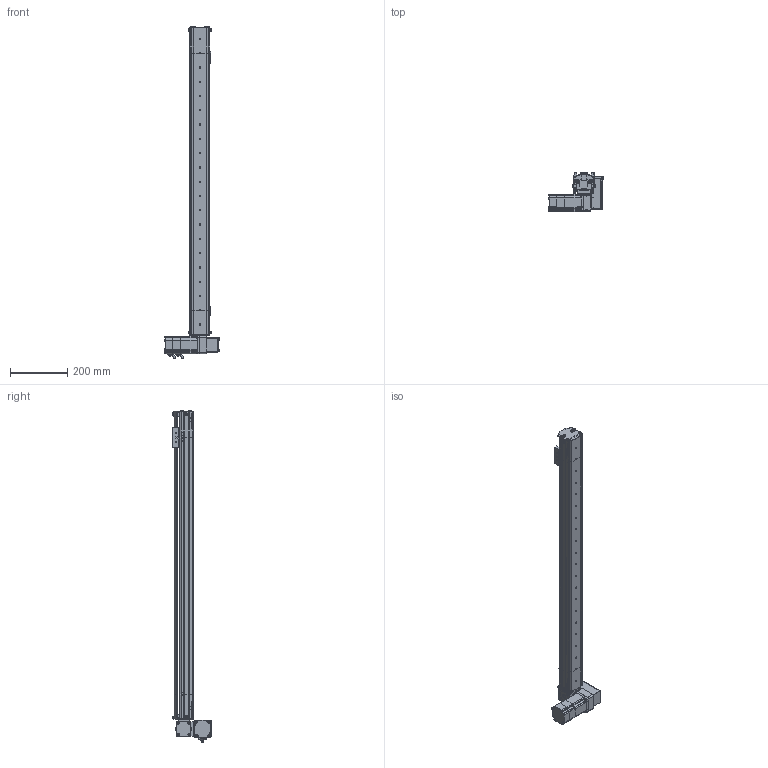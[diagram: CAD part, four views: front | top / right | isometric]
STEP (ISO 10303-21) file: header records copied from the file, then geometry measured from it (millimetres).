
FILE_DESCRIPTION (( 'STEP AP214' ), '1' );
FILE_NAME ('S07 TBN LU S900.STEP', '2010-06-29T11:43:47', ( 'Conseil Régional Haute-Normandie' ), ( 'Conseil Régional Haute-Normandie' ), 'SwSTEP 2.0', 'SolidWorks 2010', '' );
FILE_SCHEMA (( 'AUTOMOTIVE_DESIGN' ));
Length unit declared in the file: millimetre
Products named in the file (41): guide; Vis M5 L16-2_Default; Cvis M5 L30_Default; S07 TB tail (78)_Default; VisM3_Default; Conecteur2 60BLDC_Default; Axe 60BLDC_Default; Conecteur 60BLDC_Default; Chariot; S07 TBN LU S900; Couroie  course 900_Default; Corp S07 course 900_Default; Course C L900_Default; corp moteur TB(146)_Default; S07 LU(146)_Default; couvercle S07 course 900 ; cache t皻e axe_Default; couvercle moteur S07 TB; plaque de bout LU_Default; vis M5 L5_Default; cache t皻e_Default; Poulie head_Default; Plaque racord_Default; Couroie t皻e_Default; Pièce5^S07 LU(146); P1_Default; GMB 60 90 310_Default; corp tail TB_Default; renvoi LU_Default; P4_Default; P3 90A_Default; P2 90A_Default; plaque de bout_Default; vis M5 L16_Default; CHariot_Default; couvercle tail TB; Poulie_Default; T皻e de poulie_Default; vis M5 L12_Default; couroie tail_Default
Assembly tree (80 placements, depth 4):
  S07 TBN LU S900
    CHariot_Default
      guide
      vis M5 L16_Default  x2
      Chariot
    S07 LU(146)_Default
      cache t皻e_Default  x2
      renvoi LU_Default
      vis M5 L12_Default  x6
      vis M5 L5_Default  x6
      Vis M5 L16-2_Default  x8
      Poulie head_Default
      Plaque racord_Default
      Cvis M5 L30_Default  x2
      couvercle moteur S07 TB
      cache t皻e axe_Default
      plaque de bout LU_Default
      GMB 60 90 310_Default
        Conecteur 60BLDC_Default
        VisM3_Default  x12
        P3 90A_Default
        P2 90A_Default
        P4_Default
        P1_Default
        Axe 60BLDC_Default
        Conecteur2 60BLDC_Default
      Couroie t皻e_Default
      corp moteur TB(146)_Default
    Course C L900_Default
      couvercle S07 course 900 
      Couroie  course 900_Default
      Corp S07 course 900_Default
    S07 TB tail (78)_Default
      vis M5 L12_Default  x10
      corp tail TB_Default
      Poulie_Default
        Poulie_Default
        T皻e de poulie_Default
      plaque de bout_Default
      couroie tail_Default
      couvercle tail TB
  Pièce5^S07 LU(146)
Bounding box: 190.2 x 134.7 x 1162 mm (x, y, z)
Volume: 2486960.2 mm3; surface area: 1054311.5 mm2
Topology: 102 solids, 102 shells, 3928 faces, 9792 edges, 6325 vertices
Faces by surface type: plane 2232, cylinder 766, bspline 677, cone 125, torus 124, sphere 4
Entity records: 167457 total; most frequent: CARTESIAN_POINT 75239, ORIENTED_EDGE 15496, DIRECTION 12343, EDGE_CURVE 7748, VERTEX_POINT 5113, LINE 5053, VECTOR 5053, AXIS2_PLACEMENT_3D 3645
